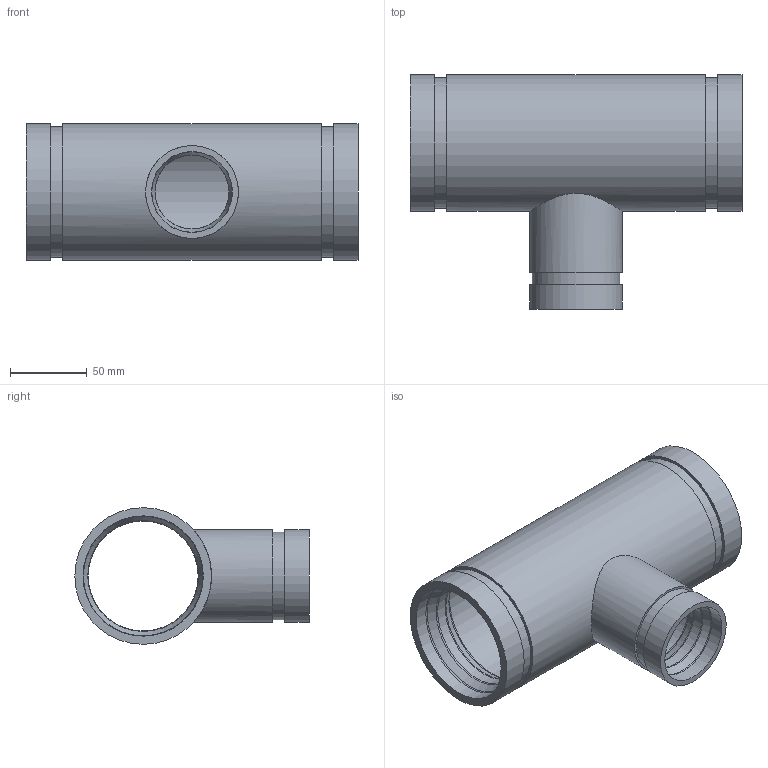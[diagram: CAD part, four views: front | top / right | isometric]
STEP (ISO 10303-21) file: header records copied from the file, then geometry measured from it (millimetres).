
FILE_DESCRIPTION(/* description */ ('VIC REDUCING TEE No 425H-SS','CAx-IF Rec.Pracs.---Representation and Presentation of Product Manufacturing Information (PMI)---4.0---2014-10-13'),/* implementation_level */ '2;1');
FILE_NAME(/* name */ 'C:\Users\kkamble\AppData\Roaming\Autodesk\ApplicationPlugins\Back Up\Victaulic_SS-OGS_Tee Reducing_Sched 40S_No 425H SS (OGS)\Victaulic_SS-OGS_Tee Reducing_Sched 40S_No 425H SS (OGS)_03.0x02.0 (80x50).stp',/* time_stamp */ '2020-08-27T17:19:44+06:00',/* author */ ('CORINNE GRAY'),/* organization */ ('Victaulic'),/* preprocessor_version */ 'ST-DEVELOPER v17.2',/* originating_system */ 'Autodesk Inventor 2019',/* authorisation */ '');
FILE_SCHEMA (('AP242_MANAGED_MODEL_BASED_3D_ENGINEERING_MIM_LF { 1 0 10303 442 1 1 4 }'));
Length unit declared in the file: inch
Products named in the file (1): 425H SS-03.0x02.0
Bounding box: 215.9 x 152.4 x 88.9 mm (x, y, z)
Volume: 354056.9 mm3; surface area: 139278.7 mm2
Topology: 1 solids, 1 shells, 43 faces, 134 edges, 100 vertices
Faces by surface type: cylinder 16, torus 12, plane 9, cone 6
Full cylindrical faces by diameter (mm): 48.006 x1, 52.578 x2, 57.15 x1, 60.325 x2, 71.526 x2, 78.232 x3, 84.938 x2, 88.9 x3
Entity records: 1919 total; most frequent: CARTESIAN_POINT 427, DIRECTION 352, ORIENTED_EDGE 268, AXIS2_PLACEMENT_3D 165, EDGE_CURVE 134, CIRCLE 108, VERTEX_POINT 100, EDGE_LOOP 54
